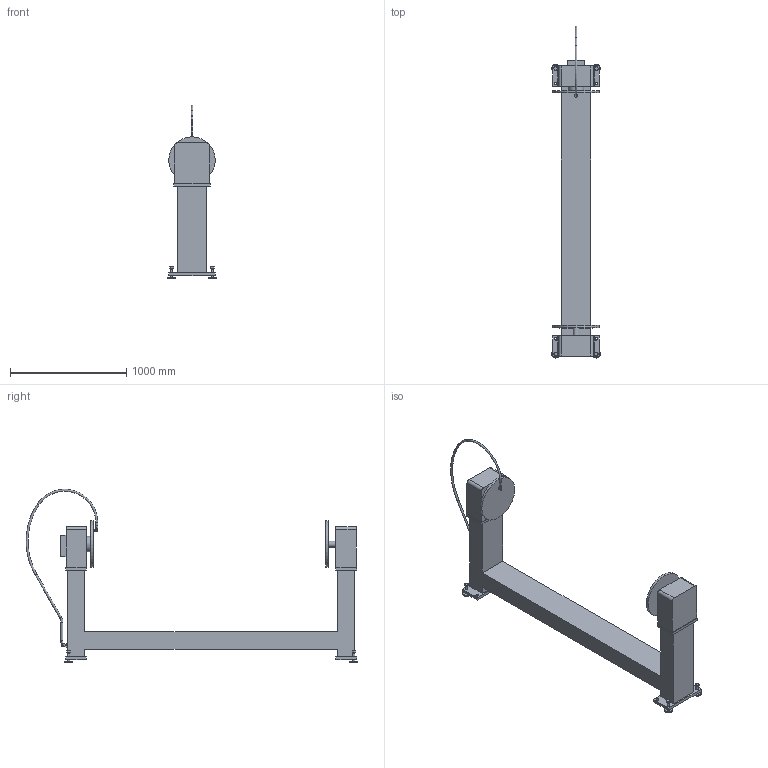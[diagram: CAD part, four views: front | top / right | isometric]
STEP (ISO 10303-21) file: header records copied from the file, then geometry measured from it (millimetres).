
FILE_DESCRIPTION((''),'2;1');
FILE_NAME('H:\Machine construction\Products\Layout symbols\Positioners\HSD\013156-101 HSD-250 SNM (STEP).stp','2008-01-31T13:15:05',('Kristian'),(''),'Autodesk Inventor 2008','Autodesk Inventor 2008','');
FILE_SCHEMA(('AUTOMOTIVE_DESIGN { 1 0 10303 214 1 1 1 1 }'));
Length unit declared in the file: millimetre
Products named in the file (23): 013156- HSD-250 SNM (iAssy).iam<No details>; 114925-101 Stativ (bearbetning) (iAssy) (No details); 114925-101 Stativ (low-res); 114929-100 Drivdocka 250 kg (No details); 114928-100 Drivdocka 250kg (low-res); 114933-100 Stöddocka (No details); 114933-100 Stöddocka (low-res); 314033 Kopplingsplint; 314034 Platta; 413951 Kopparledare; 6005016 MF6S 6x16; 6026009 BRB M10; 6002068 MC6S 10x25; 406025 Fotbricka; 6001043 M6S 20x80; 6026006 BRB M6; 6002030 MC6S 6x20; 013155 Återledare -01; 013155 Svetskabel -01; 8220018 Kabelsko 70-10; 6002070 MC6S 10x35; 6022010 LM6M Låsmutter M10; 411503 Maskinskylt
Assembly tree (36 placements, depth 3):
  013156- HSD-250 SNM (iAssy).iam<No details>
    114925-101 Stativ (bearbetning) (iAssy) (No details)
      114925-101 Stativ (low-res)
    114929-100 Drivdocka 250 kg (No details)
      114928-100 Drivdocka 250kg (low-res)
    114933-100 Stöddocka (No details)
      114933-100 Stöddocka (low-res)
    314033 Kopplingsplint
      314034 Platta
      413951 Kopparledare
      6005016 MF6S 6x16  x2
      6026009 BRB M10  x3
      6002068 MC6S 10x25  x3
    406025 Fotbricka  x4
    6001043 M6S 20x80  x4
    6026006 BRB M6  x2
    6002030 MC6S 6x20  x2
    013155 Återledare -01
      013155 Svetskabel -01
      8220018 Kabelsko 70-10  x2
    6002070 MC6S 10x35
    6022010 LM6M Låsmutter M10
    411503 Maskinskylt
Bounding box: 420 x 2854.02 x 1492.13 mm (x, y, z)
Volume: 188470994.3 mm3; surface area: 5047754.7 mm2
Topology: 33 solids, 33 shells, 463 faces, 1023 edges, 661 vertices
Faces by surface type: plane 243, cylinder 127, cone 49, bspline 35, torus 5, sphere 4
Full cylindrical faces by diameter (mm): 5 x2, 6 x6, 6.4 x2, 7 x4, 8.376 x3, 10 x10, 10.5 x3, 11.34 x2, 12 x2, 15.6 x1, 16 x4, 17 x3, 20 x11, 28.19 x4, 50 x1, 70 x4, 133 x1, 400 x2
Entity records: 8539 total; most frequent: CARTESIAN_POINT 2000, DIRECTION 1250, ORIENTED_EDGE 1026, EDGE_CURVE 513, AXIS2_PLACEMENT_3D 490, EDGE_LOOP 417, VERTEX_POINT 378, FACE_OUTER_BOUND 274
